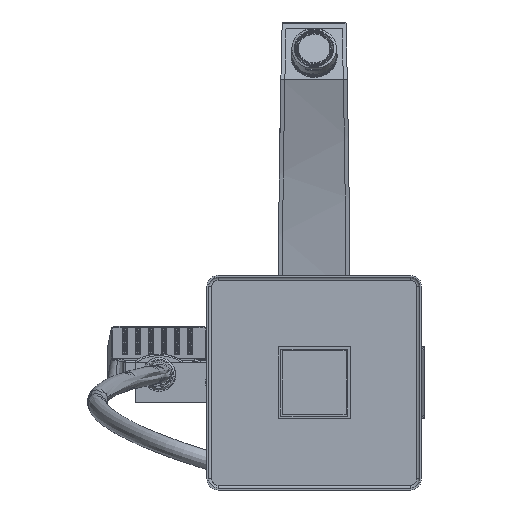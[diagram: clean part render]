
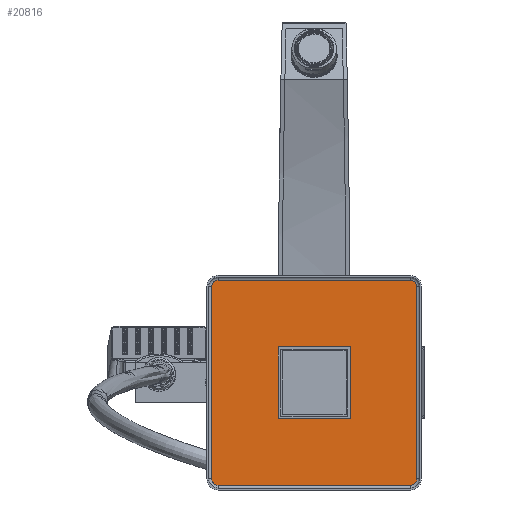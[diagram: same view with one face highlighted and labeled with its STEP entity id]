
A CAD part, front view. The second image highlights one B-rep face of the part: STEP entity #20816.
In plain terms, the highlighted planar face has unit normal (0, -1, 0).
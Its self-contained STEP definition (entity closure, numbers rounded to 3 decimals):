
#1278=FACE_BOUND('',#5350,.T.);
#2476=CIRCLE('',#23337,4.);
#2477=CIRCLE('',#23338,4.);
#2478=CIRCLE('',#23339,4.);
#2479=CIRCLE('',#23340,4.);
#3888=FACE_OUTER_BOUND('',#5349,.T.);
#5349=EDGE_LOOP('',(#18232,#18233,#18234,#18235,#18236,#18237,#18238,#18239));
#5350=EDGE_LOOP('',(#18240,#18241,#18242,#18243));
#6804=LINE('',#39764,#8198);
#6806=LINE('',#39768,#8200);
#6808=LINE('',#39772,#8202);
#6810=LINE('',#39775,#8204);
#6811=LINE('',#39781,#8205);
#6812=LINE('',#39785,#8206);
#6813=LINE('',#39789,#8207);
#6814=LINE('',#39792,#8208);
#8198=VECTOR('',#29607,45.5);
#8200=VECTOR('',#29611,45.5);
#8202=VECTOR('',#29615,45.5);
#8204=VECTOR('',#29619,45.5);
#8205=VECTOR('',#29624,121.);
#8206=VECTOR('',#29627,121.);
#8207=VECTOR('',#29630,121.);
#8208=VECTOR('',#29633,121.);
#9842=VERTEX_POINT('',#39761);
#9843=VERTEX_POINT('',#39763);
#9844=VERTEX_POINT('',#39767);
#9845=VERTEX_POINT('',#39771);
#9846=VERTEX_POINT('',#39777);
#9847=VERTEX_POINT('',#39778);
#9848=VERTEX_POINT('',#39780);
#9849=VERTEX_POINT('',#39782);
#9850=VERTEX_POINT('',#39784);
#9851=VERTEX_POINT('',#39786);
#9852=VERTEX_POINT('',#39788);
#9853=VERTEX_POINT('',#39790);
#12691=EDGE_CURVE('',#9843,#9842,#6804,.T.);
#12693=EDGE_CURVE('',#9844,#9843,#6806,.T.);
#12695=EDGE_CURVE('',#9845,#9844,#6808,.T.);
#12697=EDGE_CURVE('',#9842,#9845,#6810,.T.);
#12698=EDGE_CURVE('',#9846,#9847,#2476,.T.);
#12699=EDGE_CURVE('',#9848,#9846,#6811,.T.);
#12700=EDGE_CURVE('',#9849,#9848,#2477,.T.);
#12701=EDGE_CURVE('',#9850,#9849,#6812,.T.);
#12702=EDGE_CURVE('',#9851,#9850,#2478,.T.);
#12703=EDGE_CURVE('',#9852,#9851,#6813,.T.);
#12704=EDGE_CURVE('',#9853,#9852,#2479,.T.);
#12705=EDGE_CURVE('',#9847,#9853,#6814,.T.);
#18232=ORIENTED_EDGE('',*,*,#12698,.F.);
#18233=ORIENTED_EDGE('',*,*,#12699,.F.);
#18234=ORIENTED_EDGE('',*,*,#12700,.F.);
#18235=ORIENTED_EDGE('',*,*,#12701,.F.);
#18236=ORIENTED_EDGE('',*,*,#12702,.F.);
#18237=ORIENTED_EDGE('',*,*,#12703,.F.);
#18238=ORIENTED_EDGE('',*,*,#12704,.F.);
#18239=ORIENTED_EDGE('',*,*,#12705,.F.);
#18240=ORIENTED_EDGE('',*,*,#12691,.T.);
#18241=ORIENTED_EDGE('',*,*,#12697,.T.);
#18242=ORIENTED_EDGE('',*,*,#12695,.T.);
#18243=ORIENTED_EDGE('',*,*,#12693,.T.);
#19611=PLANE('',#23336);
#20816=ADVANCED_FACE('',(#3888,#1278),#19611,.F.);
#23336=AXIS2_PLACEMENT_3D('',#39776,#29620,#29621);
#23337=AXIS2_PLACEMENT_3D('',#39779,#29622,#29623);
#23338=AXIS2_PLACEMENT_3D('',#39783,#29625,#29626);
#23339=AXIS2_PLACEMENT_3D('',#39787,#29628,#29629);
#23340=AXIS2_PLACEMENT_3D('',#39791,#29631,#29632);
#29607=DIRECTION('',(1.,0.,0.));
#29611=DIRECTION('',(0.,0.,1.));
#29615=DIRECTION('',(-1.,0.,0.));
#29619=DIRECTION('',(0.,0.,-1.));
#29620=DIRECTION('center_axis',(0.,1.,0.));
#29621=DIRECTION('ref_axis',(1.,0.,0.));
#29622=DIRECTION('center_axis',(0.,1.,0.));
#29623=DIRECTION('ref_axis',(0.,0.,-1.));
#29624=DIRECTION('',(-1.,0.,0.));
#29625=DIRECTION('center_axis',(0.,1.,0.));
#29626=DIRECTION('ref_axis',(1.,0.,0.));
#29627=DIRECTION('',(0.,0.,-1.));
#29628=DIRECTION('center_axis',(0.,1.,0.));
#29629=DIRECTION('ref_axis',(0.,0.,1.));
#29630=DIRECTION('',(1.,0.,0.));
#29631=DIRECTION('center_axis',(0.,1.,0.));
#29632=DIRECTION('ref_axis',(-1.,0.,0.));
#29633=DIRECTION('',(0.,0.,1.));
#39761=CARTESIAN_POINT('',(303.149,-674.5,13.2));
#39763=CARTESIAN_POINT('',(257.649,-674.5,13.2));
#39764=CARTESIAN_POINT('',(257.649,-674.5,13.2));
#39767=CARTESIAN_POINT('',(257.649,-674.5,-32.3));
#39768=CARTESIAN_POINT('',(257.649,-674.5,-32.3));
#39771=CARTESIAN_POINT('',(303.149,-674.5,-32.3));
#39772=CARTESIAN_POINT('',(303.149,-674.5,-32.3));
#39775=CARTESIAN_POINT('',(303.149,-674.5,13.2));
#39776=CARTESIAN_POINT('Origin',(347.479,-674.5,-9.55));
#39777=CARTESIAN_POINT('',(219.899,-674.5,-74.05));
#39778=CARTESIAN_POINT('',(215.899,-674.5,-70.05));
#39779=CARTESIAN_POINT('Origin',(219.899,-674.5,-70.05));
#39780=CARTESIAN_POINT('',(340.899,-674.5,-74.05));
#39781=CARTESIAN_POINT('',(340.899,-674.5,-74.05));
#39782=CARTESIAN_POINT('',(344.899,-674.5,-70.05));
#39783=CARTESIAN_POINT('Origin',(340.899,-674.5,-70.05));
#39784=CARTESIAN_POINT('',(344.899,-674.5,50.95));
#39785=CARTESIAN_POINT('',(344.899,-674.5,50.95));
#39786=CARTESIAN_POINT('',(340.899,-674.5,54.95));
#39787=CARTESIAN_POINT('Origin',(340.899,-674.5,50.95));
#39788=CARTESIAN_POINT('',(219.899,-674.5,54.95));
#39789=CARTESIAN_POINT('',(219.899,-674.5,54.95));
#39790=CARTESIAN_POINT('',(215.899,-674.5,50.95));
#39791=CARTESIAN_POINT('Origin',(219.899,-674.5,50.95));
#39792=CARTESIAN_POINT('',(215.899,-674.5,-70.05));
